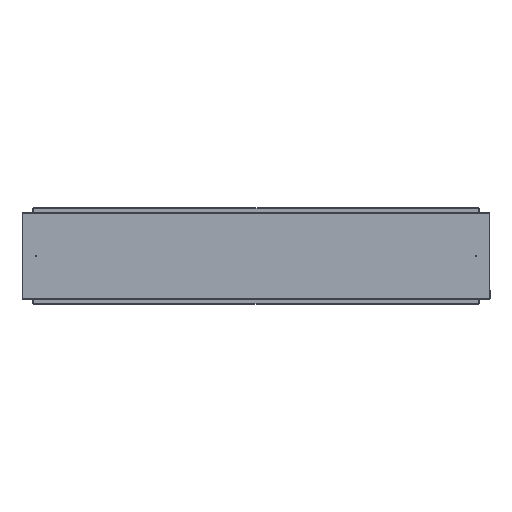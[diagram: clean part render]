
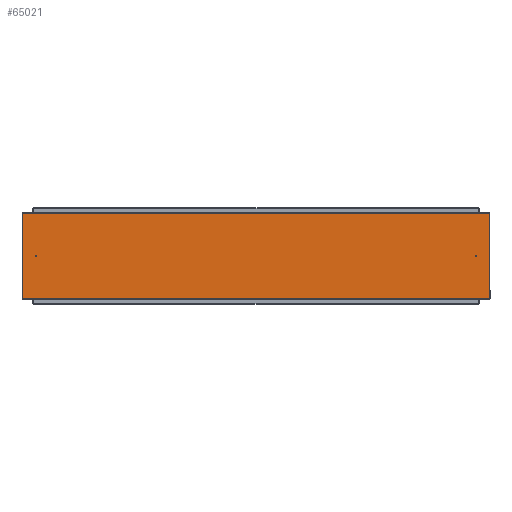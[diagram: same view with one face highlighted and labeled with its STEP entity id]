
A CAD part, left-side view. The second image highlights one B-rep face of the part: STEP entity #65021.
In plain terms, the highlighted planar face has unit normal (-1, 0, 0) as drawn and (0, 0, -1) by its records, which use the part's own axes.
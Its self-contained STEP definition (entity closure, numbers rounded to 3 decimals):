
#813 = EDGE_LOOP ( 'NONE', ( #19074, #117327, #3800, #75949 ) ) ;
#1567 = CARTESIAN_POINT ( 'NONE',  ( -183.49, -998.5, 0. ) ) ;
#3800 = ORIENTED_EDGE ( 'NONE', *, *, #84668, .F. ) ;
#6273 = DIRECTION ( 'NONE',  ( 1., 0., 0. ) ) ;
#10190 = FACE_OUTER_BOUND ( 'NONE', #813, .T. ) ;
#12645 = VECTOR ( 'NONE', #120575, 1000. ) ;
#15819 = VERTEX_POINT ( 'NONE', #49997 ) ;
#17063 = VECTOR ( 'NONE', #56908, 1000. ) ;
#19074 = ORIENTED_EDGE ( 'NONE', *, *, #65945, .F. ) ;
#19548 = DIRECTION ( 'NONE',  ( -1., 0., 0. ) ) ;
#20926 = LINE ( 'NONE', #59604, #28694 ) ;
#22188 = CARTESIAN_POINT ( 'NONE',  ( -183.49, 998.5, 0. ) ) ;
#28694 = VECTOR ( 'NONE', #30730, 1000. ) ;
#30730 = DIRECTION ( 'NONE',  ( 0., 1., 0. ) ) ;
#36065 = CARTESIAN_POINT ( 'NONE',  ( -183.49, 998.5, 0. ) ) ;
#36633 = VERTEX_POINT ( 'NONE', #58736 ) ;
#37032 = VERTEX_POINT ( 'NONE', #22188 ) ;
#39067 = DIRECTION ( 'NONE',  ( 0., 0., 1. ) ) ;
#43518 = VERTEX_POINT ( 'NONE', #71019 ) ;
#45383 = CARTESIAN_POINT ( 'NONE',  ( -183.49, 998.5, 0. ) ) ;
#46775 = LINE ( 'NONE', #84243, #12645 ) ;
#47681 = PLANE ( 'NONE',  #91347 ) ;
#49997 = CARTESIAN_POINT ( 'NONE',  ( 183.49, 998.5, 0. ) ) ;
#56908 = DIRECTION ( 'NONE',  ( 0., -1., 0. ) ) ;
#58736 = CARTESIAN_POINT ( 'NONE',  ( -183.49, -998.5, 0. ) ) ;
#59604 = CARTESIAN_POINT ( 'NONE',  ( 183.49, 998.5, 0. ) ) ;
#63854 = EDGE_CURVE ( 'NONE', #36633, #43518, #46775, .T. ) ;
#64697 = VECTOR ( 'NONE', #19548, 1000. ) ;
#65021 = ADVANCED_FACE ( 'NONE', ( #10190 ), #47681, .F. ) ;
#65945 = EDGE_CURVE ( 'NONE', #37032, #36633, #73550, .T. ) ;
#71019 = CARTESIAN_POINT ( 'NONE',  ( 183.49, -998.5, 0. ) ) ;
#73550 = LINE ( 'NONE', #36065, #17063 ) ;
#74855 = LINE ( 'NONE', #45383, #64697 ) ;
#75949 = ORIENTED_EDGE ( 'NONE', *, *, #63854, .F. ) ;
#79620 = EDGE_CURVE ( 'NONE', #15819, #37032, #74855, .T. ) ;
#84243 = CARTESIAN_POINT ( 'NONE',  ( -183.49, -998.5, 0. ) ) ;
#84668 = EDGE_CURVE ( 'NONE', #43518, #15819, #20926, .T. ) ;
#91347 = AXIS2_PLACEMENT_3D ( 'NONE', #1567, #39067, #6273 ) ;
#117327 = ORIENTED_EDGE ( 'NONE', *, *, #79620, .F. ) ;
#120575 = DIRECTION ( 'NONE',  ( 1., 0., 0. ) ) ;
